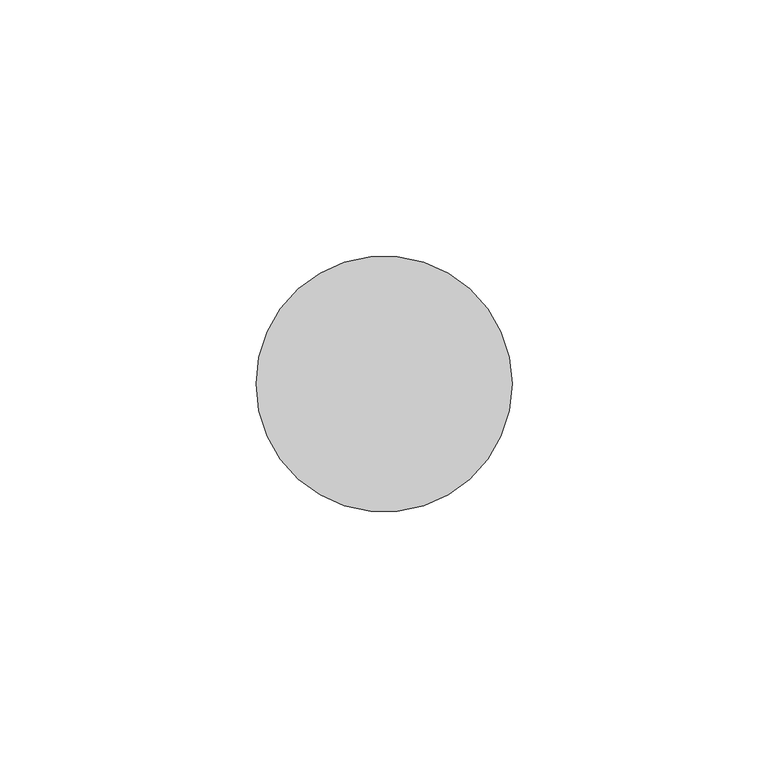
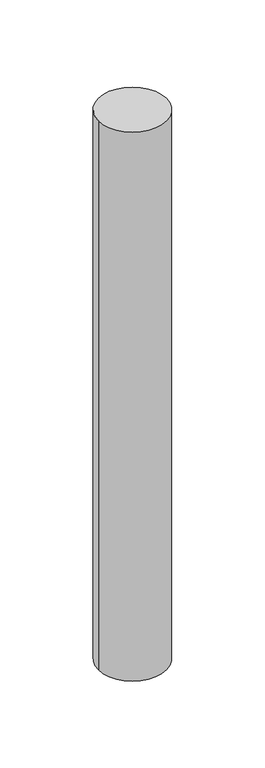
"""IFC4 building model written with IfcOpenShell, lengths in millimetres: member geometry, 圓形豎框 : 25mm 半徑."""

from ifc_helpers import new_model, si_unit, point, frame, origin, origin_2d, place, context, project, spatial, circle_curve, trimmed, segment, composite_curve, outline, extrude, source, transform, mapped, element, save


def member_d95575fb(model_context):
    return source(origin(), model_context, "Body", "SweptSolid", [
        extrude(outline(composite_curve([segment(trimmed(circle_curve(origin_2d(), 25.0), [point((25.0, 0.0))], [point((-25.0, 0.0))], False, "CARTESIAN"), True, "CONTINUOUS"), segment(trimmed(circle_curve(origin_2d(), 25.0), [point((-25.0, 0.0))], [point((25.0, 0.0))], False, "CARTESIAN"), True, "CONTINUOUS")], self_intersect=False)), frame((0.0, 0.0, -425.014358), z_axis=(0.0, 0.0, 1.0), x_axis=(1.0, 0.0, 0.0)), (0.0, 0.0, 1.0), 425.014358),
    ])


if __name__ == "__main__":
    model = new_model("IFC4")
    model_context = context("Model", 3, world=origin())
    ifc_project = project(units=[si_unit("LENGTHUNIT", "METRE", prefix="MILLI")], contexts=[model_context])
    site = spatial("IfcSite", under=ifc_project)
    building = spatial("IfcBuilding", under=site)
    placement = place(None, origin())
    member_shape = member_d95575fb(model_context)
    element("IfcMember", 1, ObjectType="圓形豎框 : 25mm 半徑", at=placement, inside=building, context=model_context, shape_type="MappedRepresentation", body=[
        mapped(member_shape, transform((0.0, 0.0, 0.0), x_axis=(1.0, 0.0, 0.0), y_axis=(0.0, 1.0, 0.0), z_axis=(0.0, 0.0, 1.0))),
    ])
    save(model, "model.ifc")
